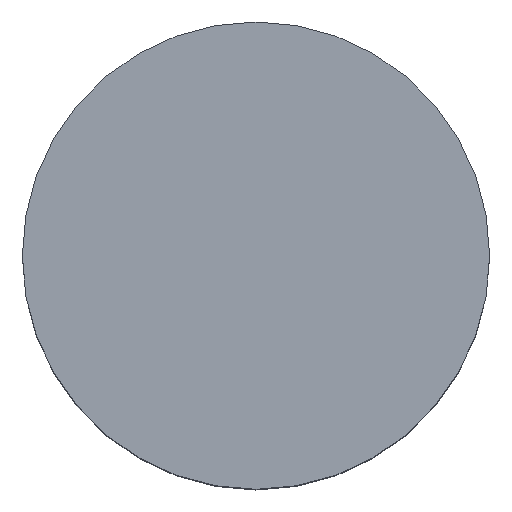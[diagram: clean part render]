
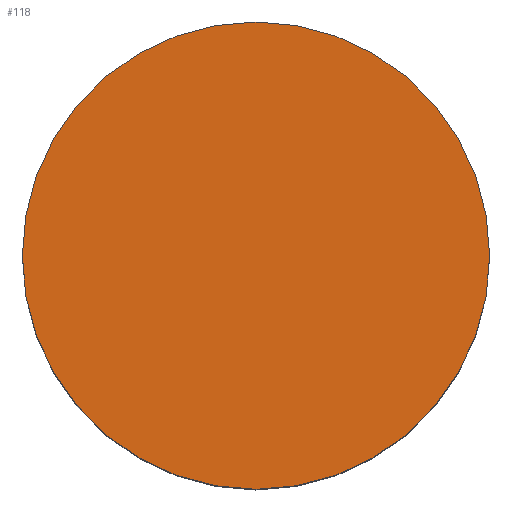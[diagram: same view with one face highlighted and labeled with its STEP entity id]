
A CAD part, top view. The second image highlights one B-rep face of the part: STEP entity #118.
In plain terms, the highlighted planar face has unit normal (0, 0, 1).
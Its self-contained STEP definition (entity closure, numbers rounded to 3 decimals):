
#118=ADVANCED_FACE('',(#128),#120,.T.);
#120=PLANE('',#215);
#128=FACE_OUTER_BOUND('',#136,.T.);
#136=EDGE_LOOP('',(#163,#164));
#163=ORIENTED_EDGE('',*,*,#186,.T.);
#164=ORIENTED_EDGE('',*,*,#184,.T.);
#171=VERTEX_POINT('',#281);
#172=VERTEX_POINT('',#283);
#184=EDGE_CURVE('',#172,#171,#195,.T.);
#186=EDGE_CURVE('',#171,#172,#196,.T.);
#195=CIRCLE('',#211,50.);
#196=CIRCLE('',#213,50.);
#211=AXIS2_PLACEMENT_3D('',#282,#247,#248);
#213=AXIS2_PLACEMENT_3D('',#286,#252,#253);
#215=AXIS2_PLACEMENT_3D('',#288,#256,#257);
#247=DIRECTION('',(0.,0.,1.));
#248=DIRECTION('',(0.,-1.,0.));
#252=DIRECTION('',(0.,0.,1.));
#253=DIRECTION('',(0.,1.,0.));
#256=DIRECTION('',(0.,0.,1.));
#257=DIRECTION('',(0.,1.,0.));
#281=CARTESIAN_POINT('',(-50.,0.,82.));
#282=CARTESIAN_POINT('',(0.,0.,82.));
#283=CARTESIAN_POINT('',(50.,0.,82.));
#286=CARTESIAN_POINT('',(0.,0.,82.));
#288=CARTESIAN_POINT('',(0.,0.,82.));
